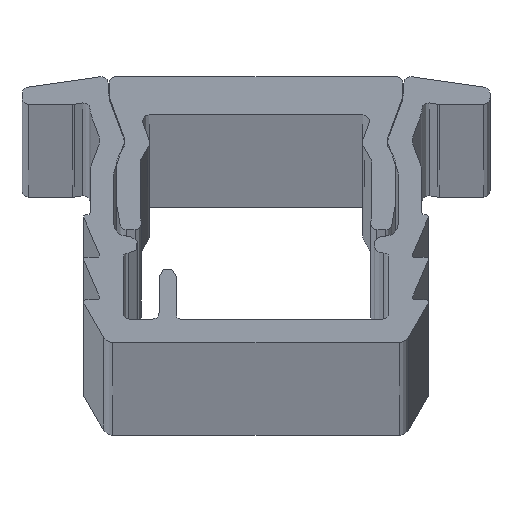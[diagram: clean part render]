
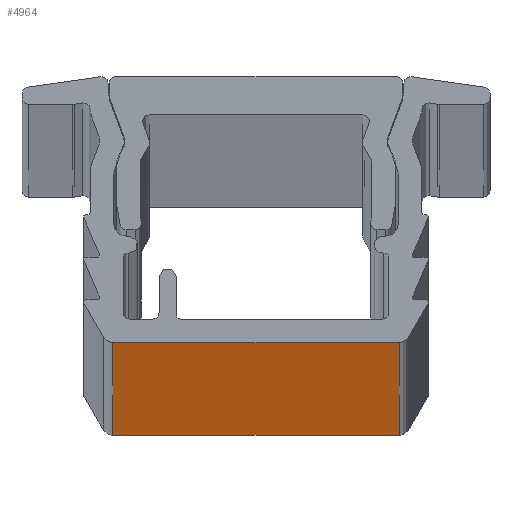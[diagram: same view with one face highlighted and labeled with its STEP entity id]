
A CAD part, top view. The second image highlights one B-rep face of the part: STEP entity #4964.
In plain terms, the highlighted planar face has unit normal (0, -1, 0).
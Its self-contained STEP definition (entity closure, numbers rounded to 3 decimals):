
#29 = DIRECTION ( 'NONE',  ( 0., 0., -1. ) ) ;
#43 = ORIENTED_EDGE ( 'NONE', *, *, #917, .F. ) ;
#114 = CARTESIAN_POINT ( 'NONE',  ( -6.73, 0., 1250. ) ) ;
#399 = VERTEX_POINT ( 'NONE', #4409 ) ;
#674 = CARTESIAN_POINT ( 'NONE',  ( -6.73, 0., 1250. ) ) ;
#810 = EDGE_CURVE ( 'NONE', #4792, #399, #2274, .T. ) ;
#876 = EDGE_CURVE ( 'NONE', #4792, #2645, #1646, .T. ) ;
#917 = EDGE_CURVE ( 'NONE', #399, #4278, #2021, .T. ) ;
#1029 = CARTESIAN_POINT ( 'NONE',  ( -6.73, 0., 1250. ) ) ;
#1204 = ORIENTED_EDGE ( 'NONE', *, *, #810, .F. ) ;
#1283 = EDGE_CURVE ( 'NONE', #2645, #4278, #4898, .T. ) ;
#1646 = LINE ( 'NONE', #3644, #4753 ) ;
#1699 = EDGE_LOOP ( 'NONE', ( #4735, #43, #1204, #4066 ) ) ;
#1742 = VECTOR ( 'NONE', #4725, 1000. ) ;
#1947 = PLANE ( 'NONE',  #4784 ) ;
#1994 = VECTOR ( 'NONE', #29, 1000. ) ;
#2021 = LINE ( 'NONE', #3721, #1994 ) ;
#2274 = LINE ( 'NONE', #674, #1742 ) ;
#2633 = CARTESIAN_POINT ( 'NONE',  ( 6.73, 0., -1250. ) ) ;
#2645 = VERTEX_POINT ( 'NONE', #4397 ) ;
#3282 = CARTESIAN_POINT ( 'NONE',  ( -6.73, 0., -1250. ) ) ;
#3290 = DIRECTION ( 'NONE',  ( 0., 0., -1. ) ) ;
#3472 = VECTOR ( 'NONE', #3713, 1000. ) ;
#3592 = DIRECTION ( 'NONE',  ( 0., 1., 0. ) ) ;
#3644 = CARTESIAN_POINT ( 'NONE',  ( -6.73, 0., 1250. ) ) ;
#3713 = DIRECTION ( 'NONE',  ( 1., 0., 0. ) ) ;
#3721 = CARTESIAN_POINT ( 'NONE',  ( 6.73, 0., 1250. ) ) ;
#4066 = ORIENTED_EDGE ( 'NONE', *, *, #876, .T. ) ;
#4278 = VERTEX_POINT ( 'NONE', #2633 ) ;
#4397 = CARTESIAN_POINT ( 'NONE',  ( -6.73, 0., -1250. ) ) ;
#4409 = CARTESIAN_POINT ( 'NONE',  ( 6.73, 0., 1250. ) ) ;
#4723 = FACE_OUTER_BOUND ( 'NONE', #1699, .T. ) ;
#4725 = DIRECTION ( 'NONE',  ( 1., 0., 0. ) ) ;
#4735 = ORIENTED_EDGE ( 'NONE', *, *, #1283, .T. ) ;
#4753 = VECTOR ( 'NONE', #3290, 1000. ) ;
#4784 = AXIS2_PLACEMENT_3D ( 'NONE', #1029, #3592, #5233 ) ;
#4792 = VERTEX_POINT ( 'NONE', #114 ) ;
#4898 = LINE ( 'NONE', #3282, #3472 ) ;
#4964 = ADVANCED_FACE ( 'NONE', ( #4723 ), #1947, .F. ) ;
#5233 = DIRECTION ( 'NONE',  ( 0., 0., 1. ) ) ;
